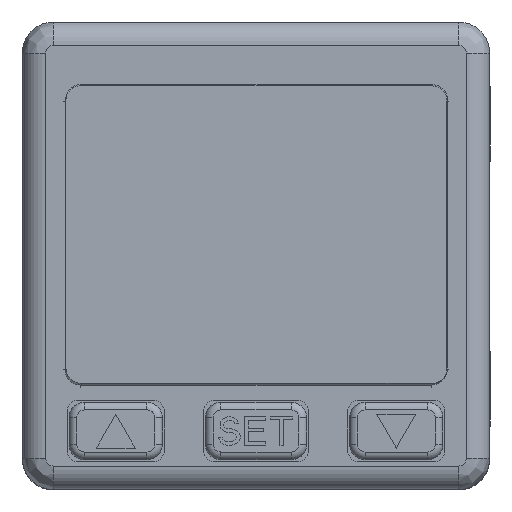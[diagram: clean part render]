
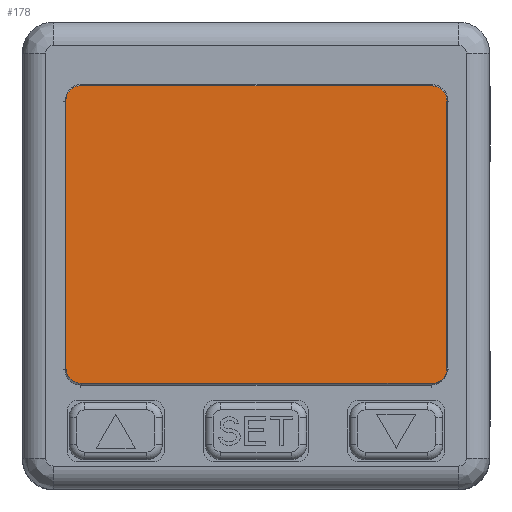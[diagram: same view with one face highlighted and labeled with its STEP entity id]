
A CAD part, top view. The second image highlights one B-rep face of the part: STEP entity #178.
In plain terms, the highlighted planar face has unit normal (0, 0, 1).
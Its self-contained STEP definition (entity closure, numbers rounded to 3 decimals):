
#178=ADVANCED_FACE('',(#1104),#1105,.T.);
#1104=FACE_OUTER_BOUND('',#3076,.T.);
#1105=PLANE('',#3077);
#3076=EDGE_LOOP('',(#5930,#5931,#5932,#5933,#5934,#5935,#5936,#5937,#5938,#5939));
#3077=AXIS2_PLACEMENT_3D('',#5940,#5941,#5942);
#5930=ORIENTED_EDGE('',*,*,#11912,.T.);
#5931=ORIENTED_EDGE('',*,*,#11913,.F.);
#5932=ORIENTED_EDGE('',*,*,#11914,.T.);
#5933=ORIENTED_EDGE('',*,*,#11915,.T.);
#5934=ORIENTED_EDGE('',*,*,#11916,.T.);
#5935=ORIENTED_EDGE('',*,*,#11917,.T.);
#5936=ORIENTED_EDGE('',*,*,#11918,.T.);
#5937=ORIENTED_EDGE('',*,*,#11919,.T.);
#5938=ORIENTED_EDGE('',*,*,#11920,.T.);
#5939=ORIENTED_EDGE('',*,*,#11911,.F.);
#5940=CARTESIAN_POINT('',(0.05,2.6,24.97));
#5941=DIRECTION('',(0.0,0.0,1.0));
#5942=DIRECTION('',(1.0,0.0,0.0));
#11911=EDGE_CURVE('',#14390,#14381,#14392,.T.);
#11912=EDGE_CURVE('',#14390,#14393,#14394,.T.);
#11913=EDGE_CURVE('',#14395,#14393,#14396,.T.);
#11914=EDGE_CURVE('',#14395,#14397,#14398,.T.);
#11915=EDGE_CURVE('',#14397,#14399,#14400,.T.);
#11916=EDGE_CURVE('',#14399,#14401,#14402,.T.);
#11917=EDGE_CURVE('',#14401,#14403,#14404,.T.);
#11918=EDGE_CURVE('',#14403,#14405,#14406,.T.);
#11919=EDGE_CURVE('',#14405,#14407,#14408,.T.);
#11920=EDGE_CURVE('',#14407,#14381,#14409,.T.);
#14381=VERTEX_POINT('',#18488);
#14390=VERTEX_POINT('',#18511);
#14392=B_SPLINE_CURVE_WITH_KNOTS('',3,(#18514,#18515,#18516,#18517,#18518,#18519),.UNSPECIFIED.,.F.,.F.,(4,1,1,4),(0.,0.,0.001,0.001),.UNSPECIFIED.);
#14393=VERTEX_POINT('',#18520);
#14394=LINE('',#18521,#18522);
#14395=VERTEX_POINT('',#18523);
#14396=B_SPLINE_CURVE_WITH_KNOTS('',3,(#18524,#18525,#18526,#18527),.UNSPECIFIED.,.F.,.F.,(4,4),(0.0,0.),.UNSPECIFIED.);
#14397=VERTEX_POINT('',#18528);
#14398=CIRCLE('',#18529,1.0);
#14399=VERTEX_POINT('',#18530);
#14400=LINE('',#18531,#18532);
#14401=VERTEX_POINT('',#18533);
#14402=CIRCLE('',#18534,1.0);
#14403=VERTEX_POINT('',#18535);
#14404=LINE('',#18536,#18537);
#14405=VERTEX_POINT('',#18538);
#14406=CIRCLE('',#18539,1.0);
#14407=VERTEX_POINT('',#18540);
#14408=LINE('',#18541,#18542);
#14409=CIRCLE('',#18543,1.0);
#18488=CARTESIAN_POINT('',(12.191,10.454,24.97));
#18511=CARTESIAN_POINT('',(11.25,10.992,24.97));
#18514=CARTESIAN_POINT('',(11.25,10.992,24.97));
#18515=CARTESIAN_POINT('',(11.393,10.992,24.97));
#18516=CARTESIAN_POINT('',(11.679,10.935,24.97));
#18517=CARTESIAN_POINT('',(11.999,10.721,24.97));
#18518=CARTESIAN_POINT('',(12.144,10.534,24.97));
#18519=CARTESIAN_POINT('',(12.191,10.454,24.97));
#18520=CARTESIAN_POINT('',(-11.25,10.992,24.97));
#18521=CARTESIAN_POINT('',(11.25,10.992,24.97));
#18522=VECTOR('',#22859,1.0);
#18523=CARTESIAN_POINT('',(-11.371,10.985,24.97));
#18524=CARTESIAN_POINT('',(-11.371,10.985,24.97));
#18525=CARTESIAN_POINT('',(-11.331,10.99,24.97));
#18526=CARTESIAN_POINT('',(-11.29,10.992,24.97));
#18527=CARTESIAN_POINT('',(-11.25,10.992,24.97));
#18528=CARTESIAN_POINT('',(-12.2,10.0,24.97));
#18529=AXIS2_PLACEMENT_3D('',#22860,#22861,#22862);
#18530=CARTESIAN_POINT('',(-12.2,-7.2,24.97));
#18531=CARTESIAN_POINT('',(-12.2,10.0,24.97));
#18532=VECTOR('',#22863,1.0);
#18533=CARTESIAN_POINT('',(-11.2,-8.2,24.97));
#18534=AXIS2_PLACEMENT_3D('',#22864,#22865,#22866);
#18535=CARTESIAN_POINT('',(11.3,-8.2,24.97));
#18536=CARTESIAN_POINT('',(-11.2,-8.2,24.97));
#18537=VECTOR('',#22867,1.0);
#18538=CARTESIAN_POINT('',(12.3,-7.2,24.97));
#18539=AXIS2_PLACEMENT_3D('',#22868,#22869,#22870);
#18540=CARTESIAN_POINT('',(12.3,10.0,24.97));
#18541=CARTESIAN_POINT('',(12.3,-7.2,24.97));
#18542=VECTOR('',#22871,1.0);
#18543=AXIS2_PLACEMENT_3D('',#22872,#22873,#22874);
#22859=DIRECTION('',(-1.0,0.0,0.0));
#22860=CARTESIAN_POINT('',(-11.2,10.0,24.97));
#22861=DIRECTION('',(0.0,0.0,1.0));
#22862=DIRECTION('',(-0.171,0.985,0.0));
#22863=DIRECTION('',(0.0,-1.0,0.0));
#22864=CARTESIAN_POINT('',(-11.2,-7.2,24.97));
#22865=DIRECTION('',(0.0,0.0,1.0));
#22866=DIRECTION('',(-1.0,0.0,0.0));
#22867=DIRECTION('',(1.0,0.0,0.0));
#22868=CARTESIAN_POINT('',(11.3,-7.2,24.97));
#22869=DIRECTION('',(0.0,0.0,1.0));
#22870=DIRECTION('',(0.,-1.0,0.0));
#22871=DIRECTION('',(0.0,1.0,0.0));
#22872=CARTESIAN_POINT('',(11.3,10.0,24.97));
#22873=DIRECTION('',(0.0,0.0,1.0));
#22874=DIRECTION('',(1.0,0.0,0.0));
